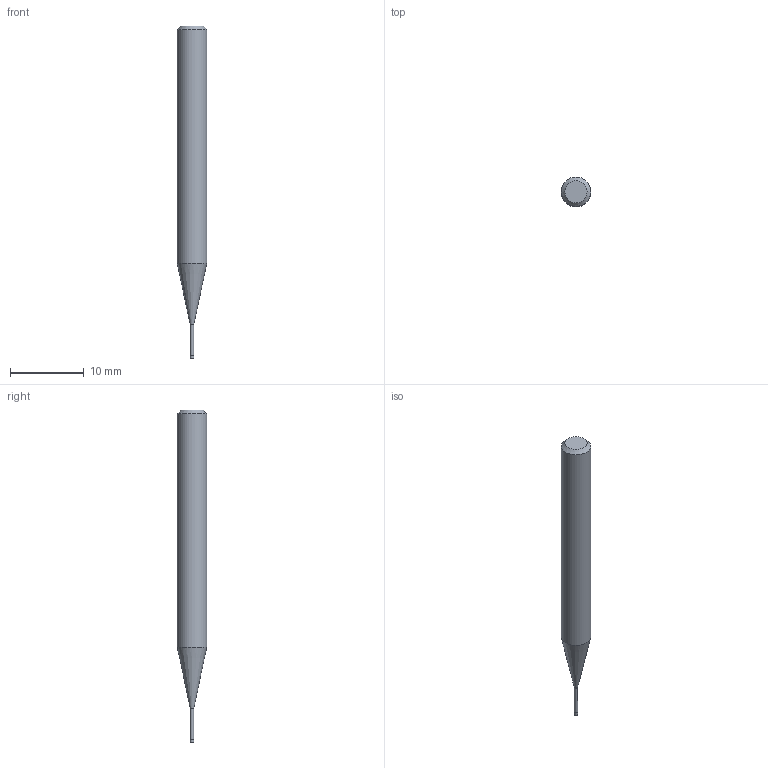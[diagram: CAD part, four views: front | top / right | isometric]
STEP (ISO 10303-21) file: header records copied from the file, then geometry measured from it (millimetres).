
FILE_DESCRIPTION((''),'2;1');
FILE_NAME('C:\Users\nsx150\AppData\Local\Temp\Mastercam 2021\RJ5U8K7RMU\TEMP.step','2021-04-21T16:40:10',(''),(''),'STEP Write','Mastercam 2021 ... CNC Software, Inc.','');
FILE_SCHEMA(('AUTOMOTIVE_DESIGN'));
Length unit declared in the file: millimetre
Products named in the file (1): None
Bounding box: 4 x 4 x 45 mm (x, y, z)
Volume: 443 mm3; surface area: 479.6 mm2
Topology: 2 solids, 2 shells, 9 faces, 12 edges, 7 vertices
Faces by surface type: plane 4, cylinder 3, cone 2
Full cylindrical faces by diameter (mm): 0.46 x1, 0.5 x1, 4 x1
Entity records: 211 total; most frequent: DIRECTION 36, CARTESIAN_POINT 25, AXIS2_PLACEMENT_3D 18, ORIENTED_EDGE 14, EDGE_LOOP 14, STYLED_ITEM 12, ADVANCED_FACE 9, FACE_BOUND 8
